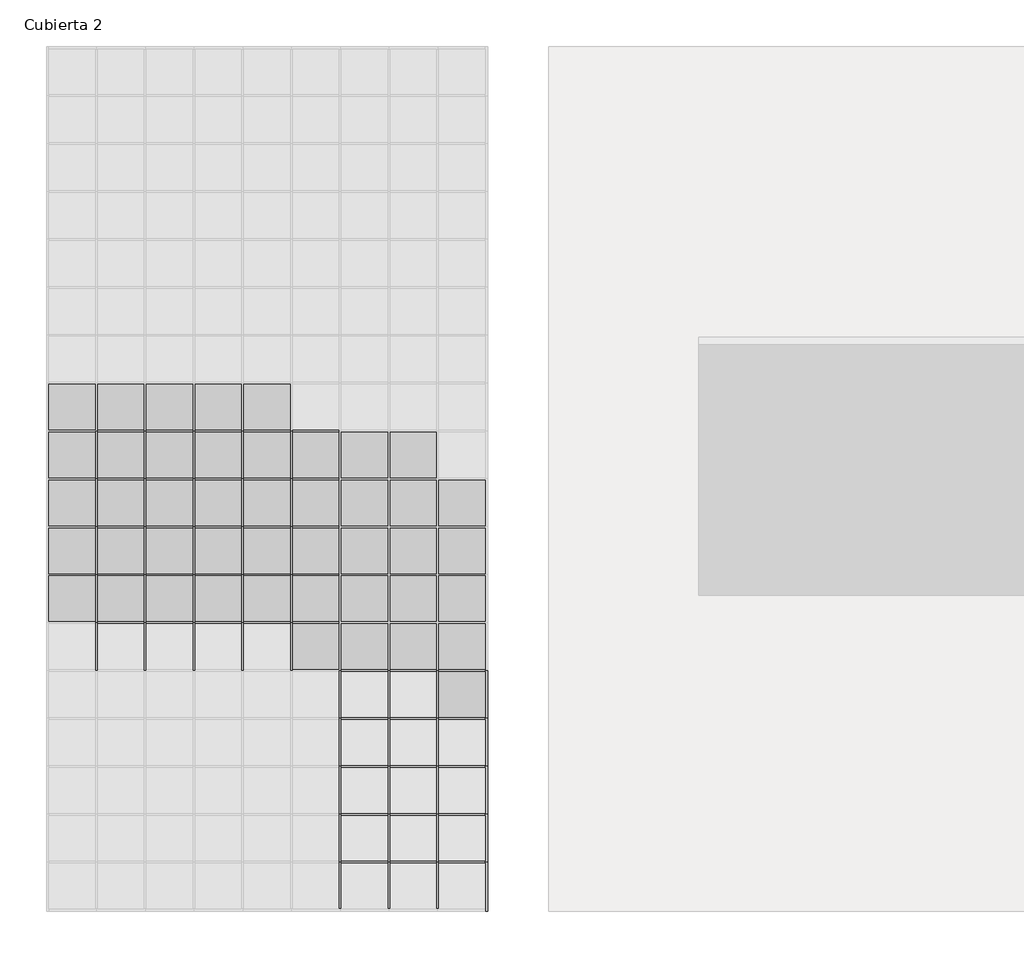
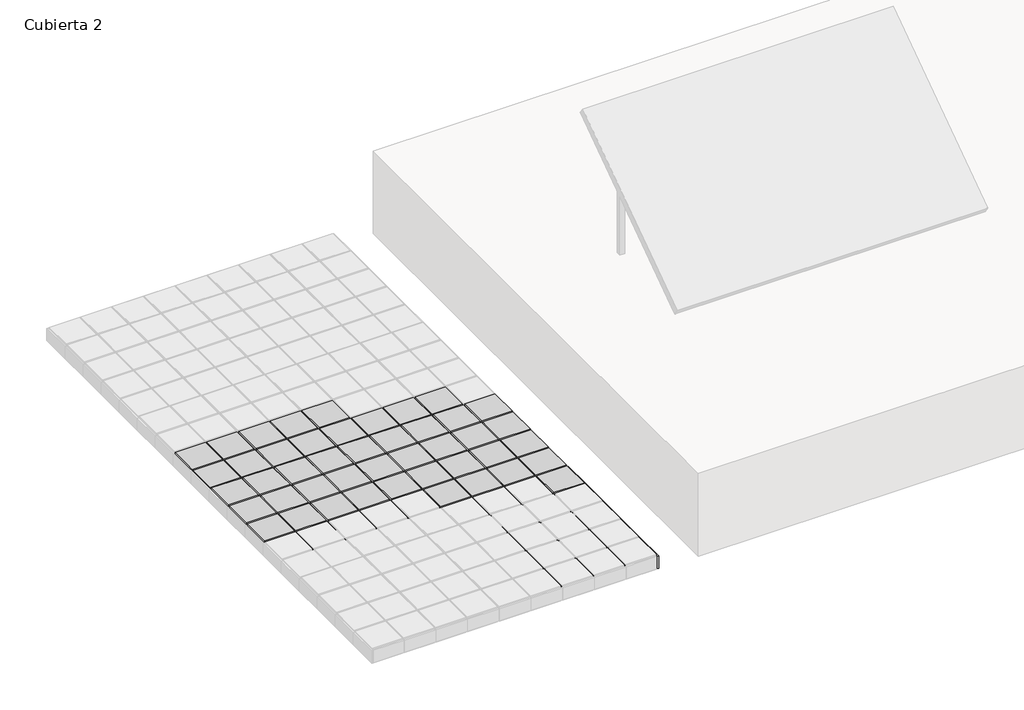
# One storey, part 2 of 4: 85 members, 45 plates.
"""IFC4 building model written with IfcOpenShell, lengths in millimetres."""

from ifc_helpers import new_model, si_unit, origin, place, context, project, spatial, transform, mapped, element, save
from components import montante_rectangular_ea949198, montante_rectangular_327b2392, montante_rectangular_18b8adfa, montante_rectangular_b9ac4352, montante_rectangular_c2f012c7, panel_de_sistema_3571c154

model = new_model("IFC4")

# Units and contexts
model_context = context("Model", 3, world=origin())
ifc_project = project(units=[si_unit("LENGTHUNIT", "METRE", prefix="MILLI")], contexts=[model_context])

# Site, building, storey
site = spatial("IfcSite", under=ifc_project)
building = spatial("IfcBuilding", under=site)
storey = spatial("IfcBuildingStorey", under=building, Name="Cubierta 2", Elevation=9000.0)

# Members
placement = place(None, origin())
montante_rectangular_shape = montante_rectangular_ea949198(model_context)
element("IfcMember", 1, ObjectType="Montante rectangular : Junta de paves", at=placement, inside=storey, context=model_context, shape_type="MappedRepresentation", body=[
    mapped(montante_rectangular_shape, transform((-4827.7268467, -7842.1113481, 8750.0), x_axis=(0.0, 1.0, 0.0), y_axis=(0.0, 0.0, -1.0), z_axis=(-1.0, 0.0, 0.0))),
])
element("IfcMember", 2, ObjectType="Montante rectangular : Junta de paves", at=placement, inside=storey, context=model_context, shape_type="MappedRepresentation", body=[
    mapped(montante_rectangular_shape, transform((-4628.8379579, -7842.1113481, 8750.0), x_axis=(0.0, 1.0, 0.0), y_axis=(0.0, 0.0, -1.0), z_axis=(-1.0, 0.0, 0.0))),
])
element("IfcMember", 3, ObjectType="Montante rectangular : Junta de paves", at=placement, inside=storey, context=model_context, shape_type="MappedRepresentation", body=[
    mapped(montante_rectangular_shape, transform((-4429.949069, -7842.1113481, 8750.0), x_axis=(0.0, 1.0, 0.0), y_axis=(0.0, 0.0, -1.0), z_axis=(-1.0, 0.0, 0.0))),
])
element("IfcMember", 4, ObjectType="Montante rectangular : Junta de paves", at=placement, inside=storey, context=model_context, shape_type="MappedRepresentation", body=[
    mapped(montante_rectangular_shape, transform((-4827.7268467, -7646.5557926, 8750.0), x_axis=(0.0, 1.0, 0.0), y_axis=(0.0, 0.0, -1.0), z_axis=(-1.0, 0.0, 0.0))),
])
element("IfcMember", 5, ObjectType="Montante rectangular : Junta de paves", at=placement, inside=storey, context=model_context, shape_type="MappedRepresentation", body=[
    mapped(montante_rectangular_shape, transform((-4628.8379579, -7646.5557926, 8750.0), x_axis=(0.0, 1.0, 0.0), y_axis=(0.0, 0.0, -1.0), z_axis=(-1.0, 0.0, 0.0))),
])
element("IfcMember", 6, ObjectType="Montante rectangular : Junta de paves", at=placement, inside=storey, context=model_context, shape_type="MappedRepresentation", body=[
    mapped(montante_rectangular_shape, transform((-4429.949069, -7646.5557926, 8750.0), x_axis=(0.0, 1.0, 0.0), y_axis=(0.0, 0.0, -1.0), z_axis=(-1.0, 0.0, 0.0))),
])
element("IfcMember", 7, ObjectType="Montante rectangular : Junta de paves", at=placement, inside=storey, context=model_context, shape_type="MappedRepresentation", body=[
    mapped(montante_rectangular_shape, transform((-4827.7268467, -7451.000237, 8750.0), x_axis=(0.0, 1.0, 0.0), y_axis=(0.0, 0.0, -1.0), z_axis=(-1.0, 0.0, 0.0))),
])
element("IfcMember", 8, ObjectType="Montante rectangular : Junta de paves", at=placement, inside=storey, context=model_context, shape_type="MappedRepresentation", body=[
    mapped(montante_rectangular_shape, transform((-4628.8379579, -7451.000237, 8750.0), x_axis=(0.0, 1.0, 0.0), y_axis=(0.0, 0.0, -1.0), z_axis=(-1.0, 0.0, 0.0))),
])
element("IfcMember", 9, ObjectType="Montante rectangular : Junta de paves", at=placement, inside=storey, context=model_context, shape_type="MappedRepresentation", body=[
    mapped(montante_rectangular_shape, transform((-4429.949069, -7451.000237, 8750.0), x_axis=(0.0, 1.0, 0.0), y_axis=(0.0, 0.0, -1.0), z_axis=(-1.0, 0.0, 0.0))),
])
element("IfcMember", 10, ObjectType="Montante rectangular : Junta de paves", at=placement, inside=storey, context=model_context, shape_type="MappedRepresentation", body=[
    mapped(montante_rectangular_shape, transform((-4827.7268467, -7255.4446815, 8750.0), x_axis=(0.0, 1.0, 0.0), y_axis=(0.0, 0.0, -1.0), z_axis=(-1.0, 0.0, 0.0))),
])
element("IfcMember", 11, ObjectType="Montante rectangular : Junta de paves", at=placement, inside=storey, context=model_context, shape_type="MappedRepresentation", body=[
    mapped(montante_rectangular_shape, transform((-4628.8379579, -7255.4446815, 8750.0), x_axis=(0.0, 1.0, 0.0), y_axis=(0.0, 0.0, -1.0), z_axis=(-1.0, 0.0, 0.0))),
])
element("IfcMember", 12, ObjectType="Montante rectangular : Junta de paves", at=placement, inside=storey, context=model_context, shape_type="MappedRepresentation", body=[
    mapped(montante_rectangular_shape, transform((-4429.949069, -7255.4446815, 8750.0), x_axis=(0.0, 1.0, 0.0), y_axis=(0.0, 0.0, -1.0), z_axis=(-1.0, 0.0, 0.0))),
])
element("IfcMember", 13, ObjectType="Montante rectangular : Junta de paves", at=placement, inside=storey, context=model_context, shape_type="MappedRepresentation", body=[
    mapped(montante_rectangular_shape, transform((-4827.7268467, -7059.8891259, 8750.0), x_axis=(0.0, 1.0, 0.0), y_axis=(0.0, 0.0, -1.0), z_axis=(-1.0, 0.0, 0.0))),
])
element("IfcMember", 14, ObjectType="Montante rectangular : Junta de paves", at=placement, inside=storey, context=model_context, shape_type="MappedRepresentation", body=[
    mapped(montante_rectangular_shape, transform((-4628.8379579, -7059.8891259, 8750.0), x_axis=(0.0, 1.0, 0.0), y_axis=(0.0, 0.0, -1.0), z_axis=(-1.0, 0.0, 0.0))),
])
element("IfcMember", 15, ObjectType="Montante rectangular : Junta de paves", at=placement, inside=storey, context=model_context, shape_type="MappedRepresentation", body=[
    mapped(montante_rectangular_shape, transform((-4429.949069, -7059.8891259, 8750.0), x_axis=(0.0, 1.0, 0.0), y_axis=(0.0, 0.0, -1.0), z_axis=(-1.0, 0.0, 0.0))),
])
element("IfcMember", 16, ObjectType="Montante rectangular : Junta de paves", at=placement, inside=storey, context=model_context, shape_type="MappedRepresentation", body=[
    mapped(montante_rectangular_shape, transform((-5822.1712912, -6864.3335704, 8750.0), x_axis=(0.0, 1.0, 0.0), y_axis=(0.0, 0.0, -1.0), z_axis=(-1.0, 0.0, 0.0))),
])
element("IfcMember", 17, ObjectType="Montante rectangular : Junta de paves", at=placement, inside=storey, context=model_context, shape_type="MappedRepresentation", body=[
    mapped(montante_rectangular_shape, transform((-5623.2824023, -6864.3335704, 8750.0), x_axis=(0.0, 1.0, 0.0), y_axis=(0.0, 0.0, -1.0), z_axis=(-1.0, 0.0, 0.0))),
])
element("IfcMember", 18, ObjectType="Montante rectangular : Junta de paves", at=placement, inside=storey, context=model_context, shape_type="MappedRepresentation", body=[
    mapped(montante_rectangular_shape, transform((-5424.3935134, -6864.3335704, 8750.0), x_axis=(0.0, 1.0, 0.0), y_axis=(0.0, 0.0, -1.0), z_axis=(-1.0, 0.0, 0.0))),
])
element("IfcMember", 19, ObjectType="Montante rectangular : Junta de paves", at=placement, inside=storey, context=model_context, shape_type="MappedRepresentation", body=[
    mapped(montante_rectangular_shape, transform((-5225.5046245, -6864.3335704, 8750.0), x_axis=(0.0, 1.0, 0.0), y_axis=(0.0, 0.0, -1.0), z_axis=(-1.0, 0.0, 0.0))),
])
element("IfcMember", 20, ObjectType="Montante rectangular : Junta de paves", at=placement, inside=storey, context=model_context, shape_type="MappedRepresentation", body=[
    mapped(montante_rectangular_shape, transform((-5026.6157356, -6864.3335704, 8750.0), x_axis=(0.0, 1.0, 0.0), y_axis=(0.0, 0.0, -1.0), z_axis=(-1.0, 0.0, 0.0))),
])
element("IfcMember", 21, ObjectType="Montante rectangular : Junta de paves", at=placement, inside=storey, context=model_context, shape_type="MappedRepresentation", body=[
    mapped(montante_rectangular_shape, transform((-5822.1712912, -6668.7780148, 8750.0), x_axis=(0.0, 1.0, 0.0), y_axis=(0.0, 0.0, -1.0), z_axis=(-1.0, 0.0, 0.0))),
])
element("IfcMember", 22, ObjectType="Montante rectangular : Junta de paves", at=placement, inside=storey, context=model_context, shape_type="MappedRepresentation", body=[
    mapped(montante_rectangular_shape, transform((-5623.2824023, -6668.7780148, 8750.0), x_axis=(0.0, 1.0, 0.0), y_axis=(0.0, 0.0, -1.0), z_axis=(-1.0, 0.0, 0.0))),
])
element("IfcMember", 23, ObjectType="Montante rectangular : Junta de paves", at=placement, inside=storey, context=model_context, shape_type="MappedRepresentation", body=[
    mapped(montante_rectangular_shape, transform((-5424.3935134, -6668.7780148, 8750.0), x_axis=(0.0, 1.0, 0.0), y_axis=(0.0, 0.0, -1.0), z_axis=(-1.0, 0.0, 0.0))),
])
element("IfcMember", 24, ObjectType="Montante rectangular : Junta de paves", at=placement, inside=storey, context=model_context, shape_type="MappedRepresentation", body=[
    mapped(montante_rectangular_shape, transform((-5225.5046245, -6668.7780148, 8750.0), x_axis=(0.0, 1.0, 0.0), y_axis=(0.0, 0.0, -1.0), z_axis=(-1.0, 0.0, 0.0))),
])
element("IfcMember", 25, ObjectType="Montante rectangular : Junta de paves", at=placement, inside=storey, context=model_context, shape_type="MappedRepresentation", body=[
    mapped(montante_rectangular_shape, transform((-5026.6157356, -6668.7780148, 8750.0), x_axis=(0.0, 1.0, 0.0), y_axis=(0.0, 0.0, -1.0), z_axis=(-1.0, 0.0, 0.0))),
])
element("IfcMember", 26, ObjectType="Montante rectangular : Junta de paves", at=placement, inside=storey, context=model_context, shape_type="MappedRepresentation", body=[
    mapped(montante_rectangular_shape, transform((-5822.1712912, -6473.2224592, 8750.0), x_axis=(0.0, 1.0, 0.0), y_axis=(0.0, 0.0, -1.0), z_axis=(-1.0, 0.0, 0.0))),
])
element("IfcMember", 27, ObjectType="Montante rectangular : Junta de paves", at=placement, inside=storey, context=model_context, shape_type="MappedRepresentation", body=[
    mapped(montante_rectangular_shape, transform((-5623.2824023, -6473.2224592, 8750.0), x_axis=(0.0, 1.0, 0.0), y_axis=(0.0, 0.0, -1.0), z_axis=(-1.0, 0.0, 0.0))),
])
element("IfcMember", 28, ObjectType="Montante rectangular : Junta de paves", at=placement, inside=storey, context=model_context, shape_type="MappedRepresentation", body=[
    mapped(montante_rectangular_shape, transform((-5424.3935134, -6473.2224592, 8750.0), x_axis=(0.0, 1.0, 0.0), y_axis=(0.0, 0.0, -1.0), z_axis=(-1.0, 0.0, 0.0))),
])
element("IfcMember", 29, ObjectType="Montante rectangular : Junta de paves", at=placement, inside=storey, context=model_context, shape_type="MappedRepresentation", body=[
    mapped(montante_rectangular_shape, transform((-5225.5046245, -6473.2224592, 8750.0), x_axis=(0.0, 1.0, 0.0), y_axis=(0.0, 0.0, -1.0), z_axis=(-1.0, 0.0, 0.0))),
])
element("IfcMember", 30, ObjectType="Montante rectangular : Junta de paves", at=placement, inside=storey, context=model_context, shape_type="MappedRepresentation", body=[
    mapped(montante_rectangular_shape, transform((-5026.6157356, -6473.2224592, 8750.0), x_axis=(0.0, 1.0, 0.0), y_axis=(0.0, 0.0, -1.0), z_axis=(-1.0, 0.0, 0.0))),
])
element("IfcMember", 31, ObjectType="Montante rectangular : Junta de paves", at=placement, inside=storey, context=model_context, shape_type="MappedRepresentation", body=[
    mapped(montante_rectangular_shape, transform((-5822.1712912, -6277.6669037, 8750.0), x_axis=(0.0, 1.0, 0.0), y_axis=(0.0, 0.0, -1.0), z_axis=(-1.0, 0.0, 0.0))),
])
element("IfcMember", 32, ObjectType="Montante rectangular : Junta de paves", at=placement, inside=storey, context=model_context, shape_type="MappedRepresentation", body=[
    mapped(montante_rectangular_shape, transform((-5623.2824023, -6277.6669037, 8750.0), x_axis=(0.0, 1.0, 0.0), y_axis=(0.0, 0.0, -1.0), z_axis=(-1.0, 0.0, 0.0))),
])
element("IfcMember", 33, ObjectType="Montante rectangular : Junta de paves", at=placement, inside=storey, context=model_context, shape_type="MappedRepresentation", body=[
    mapped(montante_rectangular_shape, transform((-5424.3935134, -6277.6669037, 8750.0), x_axis=(0.0, 1.0, 0.0), y_axis=(0.0, 0.0, -1.0), z_axis=(-1.0, 0.0, 0.0))),
])
element("IfcMember", 34, ObjectType="Montante rectangular : Junta de paves", at=placement, inside=storey, context=model_context, shape_type="MappedRepresentation", body=[
    mapped(montante_rectangular_shape, transform((-5225.5046245, -6277.6669037, 8750.0), x_axis=(0.0, 1.0, 0.0), y_axis=(0.0, 0.0, -1.0), z_axis=(-1.0, 0.0, 0.0))),
])
element("IfcMember", 35, ObjectType="Montante rectangular : Junta de paves", at=placement, inside=storey, context=model_context, shape_type="MappedRepresentation", body=[
    mapped(montante_rectangular_shape, transform((-5026.6157356, -6277.6669037, 8750.0), x_axis=(0.0, 1.0, 0.0), y_axis=(0.0, 0.0, -1.0), z_axis=(-1.0, 0.0, 0.0))),
])
element("IfcMember", 36, ObjectType="Montante rectangular : Junta de paves", at=placement, inside=storey, context=model_context, shape_type="MappedRepresentation", body=[
    mapped(montante_rectangular_shape, transform((-5822.1712912, -6082.1113481, 8750.0), x_axis=(0.0, 1.0, 0.0), y_axis=(0.0, 0.0, -1.0), z_axis=(-1.0, 0.0, 0.0))),
])
element("IfcMember", 37, ObjectType="Montante rectangular : Junta de paves", at=placement, inside=storey, context=model_context, shape_type="MappedRepresentation", body=[
    mapped(montante_rectangular_shape, transform((-5623.2824023, -6082.1113481, 8750.0), x_axis=(0.0, 1.0, 0.0), y_axis=(0.0, 0.0, -1.0), z_axis=(-1.0, 0.0, 0.0))),
])
element("IfcMember", 38, ObjectType="Montante rectangular : Junta de paves", at=placement, inside=storey, context=model_context, shape_type="MappedRepresentation", body=[
    mapped(montante_rectangular_shape, transform((-5424.3935134, -6082.1113481, 8750.0), x_axis=(0.0, 1.0, 0.0), y_axis=(0.0, 0.0, -1.0), z_axis=(-1.0, 0.0, 0.0))),
])
element("IfcMember", 39, ObjectType="Montante rectangular : Junta de paves", at=placement, inside=storey, context=model_context, shape_type="MappedRepresentation", body=[
    mapped(montante_rectangular_shape, transform((-5225.5046245, -6082.1113481, 8750.0), x_axis=(0.0, 1.0, 0.0), y_axis=(0.0, 0.0, -1.0), z_axis=(-1.0, 0.0, 0.0))),
])
element("IfcMember", 40, ObjectType="Montante rectangular : Junta de paves", at=placement, inside=storey, context=model_context, shape_type="MappedRepresentation", body=[
    mapped(montante_rectangular_shape, transform((-5026.6157356, -6082.1113481, 8750.0), x_axis=(0.0, 1.0, 0.0), y_axis=(0.0, 0.0, -1.0), z_axis=(-1.0, 0.0, 0.0))),
])
montante_rectangular_2_shape = montante_rectangular_327b2392(model_context)
element("IfcMember", 41, ObjectType="Montante rectangular : Junta de paves", at=placement, inside=storey, context=model_context, shape_type="MappedRepresentation", body=[
    mapped(montante_rectangular_2_shape, transform((-4832.7268467, -7842.1113481, 8750.0), x_axis=(1.0, 0.0, 0.0), y_axis=(0.0, 0.0, -1.0), z_axis=(0.0, 1.0, 0.0))),
])
element("IfcMember", 42, ObjectType="Montante rectangular : Junta de paves", at=placement, inside=storey, context=model_context, shape_type="MappedRepresentation", body=[
    mapped(montante_rectangular_2_shape, transform((-4633.8379579, -7842.1113481, 8750.0), x_axis=(1.0, 0.0, 0.0), y_axis=(0.0, 0.0, -1.0), z_axis=(0.0, 1.0, 0.0))),
])
element("IfcMember", 43, ObjectType="Montante rectangular : Junta de paves", at=placement, inside=storey, context=model_context, shape_type="MappedRepresentation", body=[
    mapped(montante_rectangular_2_shape, transform((-4434.949069, -7842.1113481, 8750.0), x_axis=(1.0, 0.0, 0.0), y_axis=(0.0, 0.0, -1.0), z_axis=(0.0, 1.0, 0.0))),
])
montante_rectangular_3_shape = montante_rectangular_18b8adfa(model_context)
element("IfcMember", 44, ObjectType="Montante rectangular : Junta de paves", at=placement, inside=storey, context=model_context, shape_type="MappedRepresentation", body=[
    mapped(montante_rectangular_3_shape, transform((-4832.7268467, -7646.5557926, 8750.0), x_axis=(1.0, 0.0, 0.0), y_axis=(0.0, 0.0, -1.0), z_axis=(0.0, 1.0, 0.0))),
])
element("IfcMember", 45, ObjectType="Montante rectangular : Junta de paves", at=placement, inside=storey, context=model_context, shape_type="MappedRepresentation", body=[
    mapped(montante_rectangular_3_shape, transform((-4633.8379579, -7646.5557926, 8750.0), x_axis=(1.0, 0.0, 0.0), y_axis=(0.0, 0.0, -1.0), z_axis=(0.0, 1.0, 0.0))),
])
element("IfcMember", 46, ObjectType="Montante rectangular : Junta de paves", at=placement, inside=storey, context=model_context, shape_type="MappedRepresentation", body=[
    mapped(montante_rectangular_3_shape, transform((-4434.949069, -7646.5557926, 8750.0), x_axis=(1.0, 0.0, 0.0), y_axis=(0.0, 0.0, -1.0), z_axis=(0.0, 1.0, 0.0))),
])
element("IfcMember", 47, ObjectType="Montante rectangular : Junta de paves", at=placement, inside=storey, context=model_context, shape_type="MappedRepresentation", body=[
    mapped(montante_rectangular_3_shape, transform((-4832.7268467, -7451.000237, 8750.0), x_axis=(1.0, 0.0, 0.0), y_axis=(0.0, 0.0, -1.0), z_axis=(0.0, 1.0, 0.0))),
])
element("IfcMember", 48, ObjectType="Montante rectangular : Junta de paves", at=placement, inside=storey, context=model_context, shape_type="MappedRepresentation", body=[
    mapped(montante_rectangular_3_shape, transform((-4633.8379579, -7451.000237, 8750.0), x_axis=(1.0, 0.0, 0.0), y_axis=(0.0, 0.0, -1.0), z_axis=(0.0, 1.0, 0.0))),
])
element("IfcMember", 49, ObjectType="Montante rectangular : Junta de paves", at=placement, inside=storey, context=model_context, shape_type="MappedRepresentation", body=[
    mapped(montante_rectangular_3_shape, transform((-4434.949069, -7451.000237, 8750.0), x_axis=(1.0, 0.0, 0.0), y_axis=(0.0, 0.0, -1.0), z_axis=(0.0, 1.0, 0.0))),
])
element("IfcMember", 50, ObjectType="Montante rectangular : Junta de paves", at=placement, inside=storey, context=model_context, shape_type="MappedRepresentation", body=[
    mapped(montante_rectangular_3_shape, transform((-4832.7268467, -7255.4446815, 8750.0), x_axis=(1.0, 0.0, 0.0), y_axis=(0.0, 0.0, -1.0), z_axis=(0.0, 1.0, 0.0))),
])
element("IfcMember", 51, ObjectType="Montante rectangular : Junta de paves", at=placement, inside=storey, context=model_context, shape_type="MappedRepresentation", body=[
    mapped(montante_rectangular_3_shape, transform((-4633.8379579, -7255.4446815, 8750.0), x_axis=(1.0, 0.0, 0.0), y_axis=(0.0, 0.0, -1.0), z_axis=(0.0, 1.0, 0.0))),
])
element("IfcMember", 52, ObjectType="Montante rectangular : Junta de paves", at=placement, inside=storey, context=model_context, shape_type="MappedRepresentation", body=[
    mapped(montante_rectangular_3_shape, transform((-4434.949069, -7255.4446815, 8750.0), x_axis=(1.0, 0.0, 0.0), y_axis=(0.0, 0.0, -1.0), z_axis=(0.0, 1.0, 0.0))),
])
element("IfcMember", 53, ObjectType="Montante rectangular : Junta de paves", at=placement, inside=storey, context=model_context, shape_type="MappedRepresentation", body=[
    mapped(montante_rectangular_3_shape, transform((-4832.7268467, -7059.8891259, 8750.0), x_axis=(1.0, 0.0, 0.0), y_axis=(0.0, 0.0, -1.0), z_axis=(0.0, 1.0, 0.0))),
])
element("IfcMember", 54, ObjectType="Montante rectangular : Junta de paves", at=placement, inside=storey, context=model_context, shape_type="MappedRepresentation", body=[
    mapped(montante_rectangular_3_shape, transform((-4633.8379579, -7059.8891259, 8750.0), x_axis=(1.0, 0.0, 0.0), y_axis=(0.0, 0.0, -1.0), z_axis=(0.0, 1.0, 0.0))),
])
element("IfcMember", 55, ObjectType="Montante rectangular : Junta de paves", at=placement, inside=storey, context=model_context, shape_type="MappedRepresentation", body=[
    mapped(montante_rectangular_3_shape, transform((-4434.949069, -7059.8891259, 8750.0), x_axis=(1.0, 0.0, 0.0), y_axis=(0.0, 0.0, -1.0), z_axis=(0.0, 1.0, 0.0))),
])
element("IfcMember", 56, ObjectType="Montante rectangular : Junta de paves", at=placement, inside=storey, context=model_context, shape_type="MappedRepresentation", body=[
    mapped(montante_rectangular_3_shape, transform((-5827.1712912, -6864.3335704, 8750.0), x_axis=(1.0, 0.0, 0.0), y_axis=(0.0, 0.0, -1.0), z_axis=(0.0, 1.0, 0.0))),
])
element("IfcMember", 57, ObjectType="Montante rectangular : Junta de paves", at=placement, inside=storey, context=model_context, shape_type="MappedRepresentation", body=[
    mapped(montante_rectangular_3_shape, transform((-5628.2824023, -6864.3335704, 8750.0), x_axis=(1.0, 0.0, 0.0), y_axis=(0.0, 0.0, -1.0), z_axis=(0.0, 1.0, 0.0))),
])
element("IfcMember", 58, ObjectType="Montante rectangular : Junta de paves", at=placement, inside=storey, context=model_context, shape_type="MappedRepresentation", body=[
    mapped(montante_rectangular_3_shape, transform((-5429.3935134, -6864.3335704, 8750.0), x_axis=(1.0, 0.0, 0.0), y_axis=(0.0, 0.0, -1.0), z_axis=(0.0, 1.0, 0.0))),
])
element("IfcMember", 59, ObjectType="Montante rectangular : Junta de paves", at=placement, inside=storey, context=model_context, shape_type="MappedRepresentation", body=[
    mapped(montante_rectangular_3_shape, transform((-5230.5046245, -6864.3335704, 8750.0), x_axis=(1.0, 0.0, 0.0), y_axis=(0.0, 0.0, -1.0), z_axis=(0.0, 1.0, 0.0))),
])
element("IfcMember", 60, ObjectType="Montante rectangular : Junta de paves", at=placement, inside=storey, context=model_context, shape_type="MappedRepresentation", body=[
    mapped(montante_rectangular_3_shape, transform((-5031.6157356, -6864.3335704, 8750.0), x_axis=(1.0, 0.0, 0.0), y_axis=(0.0, 0.0, -1.0), z_axis=(0.0, 1.0, 0.0))),
])
element("IfcMember", 61, ObjectType="Montante rectangular : Junta de paves", at=placement, inside=storey, context=model_context, shape_type="MappedRepresentation", body=[
    mapped(montante_rectangular_3_shape, transform((-5827.1712912, -6668.7780148, 8750.0), x_axis=(1.0, 0.0, 0.0), y_axis=(0.0, 0.0, -1.0), z_axis=(0.0, 1.0, 0.0))),
])
element("IfcMember", 62, ObjectType="Montante rectangular : Junta de paves", at=placement, inside=storey, context=model_context, shape_type="MappedRepresentation", body=[
    mapped(montante_rectangular_3_shape, transform((-5628.2824023, -6668.7780148, 8750.0), x_axis=(1.0, 0.0, 0.0), y_axis=(0.0, 0.0, -1.0), z_axis=(0.0, 1.0, 0.0))),
])
element("IfcMember", 63, ObjectType="Montante rectangular : Junta de paves", at=placement, inside=storey, context=model_context, shape_type="MappedRepresentation", body=[
    mapped(montante_rectangular_3_shape, transform((-5429.3935134, -6668.7780148, 8750.0), x_axis=(1.0, 0.0, 0.0), y_axis=(0.0, 0.0, -1.0), z_axis=(0.0, 1.0, 0.0))),
])
element("IfcMember", 64, ObjectType="Montante rectangular : Junta de paves", at=placement, inside=storey, context=model_context, shape_type="MappedRepresentation", body=[
    mapped(montante_rectangular_3_shape, transform((-5230.5046245, -6668.7780148, 8750.0), x_axis=(1.0, 0.0, 0.0), y_axis=(0.0, 0.0, -1.0), z_axis=(0.0, 1.0, 0.0))),
])
element("IfcMember", 65, ObjectType="Montante rectangular : Junta de paves", at=placement, inside=storey, context=model_context, shape_type="MappedRepresentation", body=[
    mapped(montante_rectangular_3_shape, transform((-5031.6157356, -6668.7780148, 8750.0), x_axis=(1.0, 0.0, 0.0), y_axis=(0.0, 0.0, -1.0), z_axis=(0.0, 1.0, 0.0))),
])
element("IfcMember", 66, ObjectType="Montante rectangular : Junta de paves", at=placement, inside=storey, context=model_context, shape_type="MappedRepresentation", body=[
    mapped(montante_rectangular_3_shape, transform((-5827.1712912, -6473.2224592, 8750.0), x_axis=(1.0, 0.0, 0.0), y_axis=(0.0, 0.0, -1.0), z_axis=(0.0, 1.0, 0.0))),
])
element("IfcMember", 67, ObjectType="Montante rectangular : Junta de paves", at=placement, inside=storey, context=model_context, shape_type="MappedRepresentation", body=[
    mapped(montante_rectangular_3_shape, transform((-5628.2824023, -6473.2224592, 8750.0), x_axis=(1.0, 0.0, 0.0), y_axis=(0.0, 0.0, -1.0), z_axis=(0.0, 1.0, 0.0))),
])
element("IfcMember", 68, ObjectType="Montante rectangular : Junta de paves", at=placement, inside=storey, context=model_context, shape_type="MappedRepresentation", body=[
    mapped(montante_rectangular_3_shape, transform((-5429.3935134, -6473.2224592, 8750.0), x_axis=(1.0, 0.0, 0.0), y_axis=(0.0, 0.0, -1.0), z_axis=(0.0, 1.0, 0.0))),
])
element("IfcMember", 69, ObjectType="Montante rectangular : Junta de paves", at=placement, inside=storey, context=model_context, shape_type="MappedRepresentation", body=[
    mapped(montante_rectangular_3_shape, transform((-5230.5046245, -6473.2224592, 8750.0), x_axis=(1.0, 0.0, 0.0), y_axis=(0.0, 0.0, -1.0), z_axis=(0.0, 1.0, 0.0))),
])
element("IfcMember", 70, ObjectType="Montante rectangular : Junta de paves", at=placement, inside=storey, context=model_context, shape_type="MappedRepresentation", body=[
    mapped(montante_rectangular_3_shape, transform((-5031.6157356, -6473.2224592, 8750.0), x_axis=(1.0, 0.0, 0.0), y_axis=(0.0, 0.0, -1.0), z_axis=(0.0, 1.0, 0.0))),
])
element("IfcMember", 71, ObjectType="Montante rectangular : Junta de paves", at=placement, inside=storey, context=model_context, shape_type="MappedRepresentation", body=[
    mapped(montante_rectangular_3_shape, transform((-5827.1712912, -6277.6669037, 8750.0), x_axis=(1.0, 0.0, 0.0), y_axis=(0.0, 0.0, -1.0), z_axis=(0.0, 1.0, 0.0))),
])
element("IfcMember", 72, ObjectType="Montante rectangular : Junta de paves", at=placement, inside=storey, context=model_context, shape_type="MappedRepresentation", body=[
    mapped(montante_rectangular_3_shape, transform((-5628.2824023, -6277.6669037, 8750.0), x_axis=(1.0, 0.0, 0.0), y_axis=(0.0, 0.0, -1.0), z_axis=(0.0, 1.0, 0.0))),
])
element("IfcMember", 73, ObjectType="Montante rectangular : Junta de paves", at=placement, inside=storey, context=model_context, shape_type="MappedRepresentation", body=[
    mapped(montante_rectangular_3_shape, transform((-5429.3935134, -6277.6669037, 8750.0), x_axis=(1.0, 0.0, 0.0), y_axis=(0.0, 0.0, -1.0), z_axis=(0.0, 1.0, 0.0))),
])
element("IfcMember", 74, ObjectType="Montante rectangular : Junta de paves", at=placement, inside=storey, context=model_context, shape_type="MappedRepresentation", body=[
    mapped(montante_rectangular_3_shape, transform((-5230.5046245, -6277.6669037, 8750.0), x_axis=(1.0, 0.0, 0.0), y_axis=(0.0, 0.0, -1.0), z_axis=(0.0, 1.0, 0.0))),
])
element("IfcMember", 75, ObjectType="Montante rectangular : Junta de paves", at=placement, inside=storey, context=model_context, shape_type="MappedRepresentation", body=[
    mapped(montante_rectangular_3_shape, transform((-5031.6157356, -6277.6669037, 8750.0), x_axis=(1.0, 0.0, 0.0), y_axis=(0.0, 0.0, -1.0), z_axis=(0.0, 1.0, 0.0))),
])
element("IfcMember", 76, ObjectType="Montante rectangular : Junta de paves", at=placement, inside=storey, context=model_context, shape_type="MappedRepresentation", body=[
    mapped(montante_rectangular_3_shape, transform((-5827.1712912, -6082.1113481, 8750.0), x_axis=(1.0, 0.0, 0.0), y_axis=(0.0, 0.0, -1.0), z_axis=(0.0, 1.0, 0.0))),
])
element("IfcMember", 77, ObjectType="Montante rectangular : Junta de paves", at=placement, inside=storey, context=model_context, shape_type="MappedRepresentation", body=[
    mapped(montante_rectangular_3_shape, transform((-5628.2824023, -6082.1113481, 8750.0), x_axis=(1.0, 0.0, 0.0), y_axis=(0.0, 0.0, -1.0), z_axis=(0.0, 1.0, 0.0))),
])
element("IfcMember", 78, ObjectType="Montante rectangular : Junta de paves", at=placement, inside=storey, context=model_context, shape_type="MappedRepresentation", body=[
    mapped(montante_rectangular_3_shape, transform((-5429.3935134, -6082.1113481, 8750.0), x_axis=(1.0, 0.0, 0.0), y_axis=(0.0, 0.0, -1.0), z_axis=(0.0, 1.0, 0.0))),
])
element("IfcMember", 79, ObjectType="Montante rectangular : Junta de paves", at=placement, inside=storey, context=model_context, shape_type="MappedRepresentation", body=[
    mapped(montante_rectangular_3_shape, transform((-5230.5046245, -6082.1113481, 8750.0), x_axis=(1.0, 0.0, 0.0), y_axis=(0.0, 0.0, -1.0), z_axis=(0.0, 1.0, 0.0))),
])
element("IfcMember", 80, ObjectType="Montante rectangular : Junta de paves", at=placement, inside=storey, context=model_context, shape_type="MappedRepresentation", body=[
    mapped(montante_rectangular_3_shape, transform((-5031.6157356, -6082.1113481, 8750.0), x_axis=(1.0, 0.0, 0.0), y_axis=(0.0, 0.0, -1.0), z_axis=(0.0, 1.0, 0.0))),
])
montante_rectangular_4_shape = montante_rectangular_b9ac4352(model_context)
element("IfcMember", 81, ObjectType="Montante rectangular : Junta de paves", at=placement, inside=storey, context=model_context, shape_type="MappedRepresentation", body=[
    mapped(montante_rectangular_4_shape, transform((-4231.0601801, -7646.5557926, 8750.0), x_axis=(1.0, 0.0, 0.0), y_axis=(0.0, 0.0, -1.0), z_axis=(0.0, 1.0, 0.0))),
])
element("IfcMember", 82, ObjectType="Montante rectangular : Junta de paves", at=placement, inside=storey, context=model_context, shape_type="MappedRepresentation", body=[
    mapped(montante_rectangular_4_shape, transform((-4231.0601801, -7451.000237, 8750.0), x_axis=(1.0, 0.0, 0.0), y_axis=(0.0, 0.0, -1.0), z_axis=(0.0, 1.0, 0.0))),
])
element("IfcMember", 83, ObjectType="Montante rectangular : Junta de paves", at=placement, inside=storey, context=model_context, shape_type="MappedRepresentation", body=[
    mapped(montante_rectangular_4_shape, transform((-4231.0601801, -7255.4446815, 8750.0), x_axis=(1.0, 0.0, 0.0), y_axis=(0.0, 0.0, -1.0), z_axis=(0.0, 1.0, 0.0))),
])
element("IfcMember", 84, ObjectType="Montante rectangular : Junta de paves", at=placement, inside=storey, context=model_context, shape_type="MappedRepresentation", body=[
    mapped(montante_rectangular_4_shape, transform((-4231.0601801, -7059.8891259, 8750.0), x_axis=(1.0, 0.0, 0.0), y_axis=(0.0, 0.0, -1.0), z_axis=(0.0, 1.0, 0.0))),
])
montante_rectangular_5_shape = montante_rectangular_c2f012c7(model_context)
element("IfcMember", 85, ObjectType="Montante rectangular : Junta de paves", at=placement, inside=storey, context=model_context, shape_type="MappedRepresentation", body=[
    mapped(montante_rectangular_5_shape, transform((-4231.0601801, -7842.1113481, 8750.0), x_axis=(1.0, 0.0, 0.0), y_axis=(0.0, 0.0, -1.0), z_axis=(0.0, 1.0, 0.0))),
])

# Plates
panel_de_sistema_shape = panel_de_sistema_3571c154(model_context)
element("IfcPlate", 86, ObjectType="Panel de sistema : PAVES", at=placement, inside=storey, context=model_context, shape_type="MappedRepresentation", body=[
    mapped(panel_de_sistema_shape, transform((-4335.5046245, -7250.4446815, 8750.0), x_axis=(1.0, 0.0, 0.0), y_axis=(0.0, 0.0, -1.0), z_axis=(0.0, 1.0, 0.0))),
])
element("IfcPlate", 87, ObjectType="Panel de sistema : PAVES", at=placement, inside=storey, context=model_context, shape_type="MappedRepresentation", body=[
    mapped(panel_de_sistema_shape, transform((-4932.1712912, -7054.8891259, 8750.0), x_axis=(1.0, 0.0, 0.0), y_axis=(0.0, 0.0, -1.0), z_axis=(0.0, 1.0, 0.0))),
])
element("IfcPlate", 88, ObjectType="Panel de sistema : PAVES", at=placement, inside=storey, context=model_context, shape_type="MappedRepresentation", body=[
    mapped(panel_de_sistema_shape, transform((-4733.2824023, -7054.8891259, 8750.0), x_axis=(1.0, 0.0, 0.0), y_axis=(0.0, 0.0, -1.0), z_axis=(0.0, 1.0, 0.0))),
])
element("IfcPlate", 89, ObjectType="Panel de sistema : PAVES", at=placement, inside=storey, context=model_context, shape_type="MappedRepresentation", body=[
    mapped(panel_de_sistema_shape, transform((-4534.3935134, -7054.8891259, 8750.0), x_axis=(1.0, 0.0, 0.0), y_axis=(0.0, 0.0, -1.0), z_axis=(0.0, 1.0, 0.0))),
])
element("IfcPlate", 90, ObjectType="Panel de sistema : PAVES", at=placement, inside=storey, context=model_context, shape_type="MappedRepresentation", body=[
    mapped(panel_de_sistema_shape, transform((-4335.5046245, -7054.8891259, 8750.0), x_axis=(1.0, 0.0, 0.0), y_axis=(0.0, 0.0, -1.0), z_axis=(0.0, 1.0, 0.0))),
])
element("IfcPlate", 91, ObjectType="Panel de sistema : PAVES", at=placement, inside=storey, context=model_context, shape_type="MappedRepresentation", body=[
    mapped(panel_de_sistema_shape, transform((-5926.6157356, -6859.3335704, 8750.0), x_axis=(1.0, 0.0, 0.0), y_axis=(0.0, 0.0, -1.0), z_axis=(0.0, 1.0, 0.0))),
])
element("IfcPlate", 92, ObjectType="Panel de sistema : PAVES", at=placement, inside=storey, context=model_context, shape_type="MappedRepresentation", body=[
    mapped(panel_de_sistema_shape, transform((-5727.7268467, -6859.3335704, 8750.0), x_axis=(1.0, 0.0, 0.0), y_axis=(0.0, 0.0, -1.0), z_axis=(0.0, 1.0, 0.0))),
])
element("IfcPlate", 93, ObjectType="Panel de sistema : PAVES", at=placement, inside=storey, context=model_context, shape_type="MappedRepresentation", body=[
    mapped(panel_de_sistema_shape, transform((-5528.8379579, -6859.3335704, 8750.0), x_axis=(1.0, 0.0, 0.0), y_axis=(0.0, 0.0, -1.0), z_axis=(0.0, 1.0, 0.0))),
])
element("IfcPlate", 94, ObjectType="Panel de sistema : PAVES", at=placement, inside=storey, context=model_context, shape_type="MappedRepresentation", body=[
    mapped(panel_de_sistema_shape, transform((-5329.949069, -6859.3335704, 8750.0), x_axis=(1.0, 0.0, 0.0), y_axis=(0.0, 0.0, -1.0), z_axis=(0.0, 1.0, 0.0))),
])
element("IfcPlate", 95, ObjectType="Panel de sistema : PAVES", at=placement, inside=storey, context=model_context, shape_type="MappedRepresentation", body=[
    mapped(panel_de_sistema_shape, transform((-5131.0601801, -6859.3335704, 8750.0), x_axis=(1.0, 0.0, 0.0), y_axis=(0.0, 0.0, -1.0), z_axis=(0.0, 1.0, 0.0))),
])
element("IfcPlate", 96, ObjectType="Panel de sistema : PAVES", at=placement, inside=storey, context=model_context, shape_type="MappedRepresentation", body=[
    mapped(panel_de_sistema_shape, transform((-4932.1712912, -6859.3335704, 8750.0), x_axis=(1.0, 0.0, 0.0), y_axis=(0.0, 0.0, -1.0), z_axis=(0.0, 1.0, 0.0))),
])
element("IfcPlate", 97, ObjectType="Panel de sistema : PAVES", at=placement, inside=storey, context=model_context, shape_type="MappedRepresentation", body=[
    mapped(panel_de_sistema_shape, transform((-4733.2824023, -6859.3335704, 8750.0), x_axis=(1.0, 0.0, 0.0), y_axis=(0.0, 0.0, -1.0), z_axis=(0.0, 1.0, 0.0))),
])
element("IfcPlate", 98, ObjectType="Panel de sistema : PAVES", at=placement, inside=storey, context=model_context, shape_type="MappedRepresentation", body=[
    mapped(panel_de_sistema_shape, transform((-4534.3935134, -6859.3335704, 8750.0), x_axis=(1.0, 0.0, 0.0), y_axis=(0.0, 0.0, -1.0), z_axis=(0.0, 1.0, 0.0))),
])
element("IfcPlate", 99, ObjectType="Panel de sistema : PAVES", at=placement, inside=storey, context=model_context, shape_type="MappedRepresentation", body=[
    mapped(panel_de_sistema_shape, transform((-4335.5046245, -6859.3335704, 8750.0), x_axis=(1.0, 0.0, 0.0), y_axis=(0.0, 0.0, -1.0), z_axis=(0.0, 1.0, 0.0))),
])
element("IfcPlate", 100, ObjectType="Panel de sistema : PAVES", at=placement, inside=storey, context=model_context, shape_type="MappedRepresentation", body=[
    mapped(panel_de_sistema_shape, transform((-5926.6157356, -6663.7780148, 8750.0), x_axis=(1.0, 0.0, 0.0), y_axis=(0.0, 0.0, -1.0), z_axis=(0.0, 1.0, 0.0))),
])
element("IfcPlate", 101, ObjectType="Panel de sistema : PAVES", at=placement, inside=storey, context=model_context, shape_type="MappedRepresentation", body=[
    mapped(panel_de_sistema_shape, transform((-5727.7268467, -6663.7780148, 8750.0), x_axis=(1.0, 0.0, 0.0), y_axis=(0.0, 0.0, -1.0), z_axis=(0.0, 1.0, 0.0))),
])
element("IfcPlate", 102, ObjectType="Panel de sistema : PAVES", at=placement, inside=storey, context=model_context, shape_type="MappedRepresentation", body=[
    mapped(panel_de_sistema_shape, transform((-5528.8379579, -6663.7780148, 8750.0), x_axis=(1.0, 0.0, 0.0), y_axis=(0.0, 0.0, -1.0), z_axis=(0.0, 1.0, 0.0))),
])
element("IfcPlate", 103, ObjectType="Panel de sistema : PAVES", at=placement, inside=storey, context=model_context, shape_type="MappedRepresentation", body=[
    mapped(panel_de_sistema_shape, transform((-5329.949069, -6663.7780148, 8750.0), x_axis=(1.0, 0.0, 0.0), y_axis=(0.0, 0.0, -1.0), z_axis=(0.0, 1.0, 0.0))),
])
element("IfcPlate", 104, ObjectType="Panel de sistema : PAVES", at=placement, inside=storey, context=model_context, shape_type="MappedRepresentation", body=[
    mapped(panel_de_sistema_shape, transform((-5131.0601801, -6663.7780148, 8750.0), x_axis=(1.0, 0.0, 0.0), y_axis=(0.0, 0.0, -1.0), z_axis=(0.0, 1.0, 0.0))),
])
element("IfcPlate", 105, ObjectType="Panel de sistema : PAVES", at=placement, inside=storey, context=model_context, shape_type="MappedRepresentation", body=[
    mapped(panel_de_sistema_shape, transform((-4932.1712912, -6663.7780148, 8750.0), x_axis=(1.0, 0.0, 0.0), y_axis=(0.0, 0.0, -1.0), z_axis=(0.0, 1.0, 0.0))),
])
element("IfcPlate", 106, ObjectType="Panel de sistema : PAVES", at=placement, inside=storey, context=model_context, shape_type="MappedRepresentation", body=[
    mapped(panel_de_sistema_shape, transform((-4733.2824023, -6663.7780148, 8750.0), x_axis=(1.0, 0.0, 0.0), y_axis=(0.0, 0.0, -1.0), z_axis=(0.0, 1.0, 0.0))),
])
element("IfcPlate", 107, ObjectType="Panel de sistema : PAVES", at=placement, inside=storey, context=model_context, shape_type="MappedRepresentation", body=[
    mapped(panel_de_sistema_shape, transform((-4534.3935134, -6663.7780148, 8750.0), x_axis=(1.0, 0.0, 0.0), y_axis=(0.0, 0.0, -1.0), z_axis=(0.0, 1.0, 0.0))),
])
element("IfcPlate", 108, ObjectType="Panel de sistema : PAVES", at=placement, inside=storey, context=model_context, shape_type="MappedRepresentation", body=[
    mapped(panel_de_sistema_shape, transform((-4335.5046245, -6663.7780148, 8750.0), x_axis=(1.0, 0.0, 0.0), y_axis=(0.0, 0.0, -1.0), z_axis=(0.0, 1.0, 0.0))),
])
element("IfcPlate", 109, ObjectType="Panel de sistema : PAVES", at=placement, inside=storey, context=model_context, shape_type="MappedRepresentation", body=[
    mapped(panel_de_sistema_shape, transform((-5926.6157356, -6468.2224592, 8750.0), x_axis=(1.0, 0.0, 0.0), y_axis=(0.0, 0.0, -1.0), z_axis=(0.0, 1.0, 0.0))),
])
element("IfcPlate", 110, ObjectType="Panel de sistema : PAVES", at=placement, inside=storey, context=model_context, shape_type="MappedRepresentation", body=[
    mapped(panel_de_sistema_shape, transform((-5727.7268467, -6468.2224592, 8750.0), x_axis=(1.0, 0.0, 0.0), y_axis=(0.0, 0.0, -1.0), z_axis=(0.0, 1.0, 0.0))),
])
element("IfcPlate", 111, ObjectType="Panel de sistema : PAVES", at=placement, inside=storey, context=model_context, shape_type="MappedRepresentation", body=[
    mapped(panel_de_sistema_shape, transform((-5528.8379579, -6468.2224592, 8750.0), x_axis=(1.0, 0.0, 0.0), y_axis=(0.0, 0.0, -1.0), z_axis=(0.0, 1.0, 0.0))),
])
element("IfcPlate", 112, ObjectType="Panel de sistema : PAVES", at=placement, inside=storey, context=model_context, shape_type="MappedRepresentation", body=[
    mapped(panel_de_sistema_shape, transform((-5329.949069, -6468.2224592, 8750.0), x_axis=(1.0, 0.0, 0.0), y_axis=(0.0, 0.0, -1.0), z_axis=(0.0, 1.0, 0.0))),
])
element("IfcPlate", 113, ObjectType="Panel de sistema : PAVES", at=placement, inside=storey, context=model_context, shape_type="MappedRepresentation", body=[
    mapped(panel_de_sistema_shape, transform((-5131.0601801, -6468.2224592, 8750.0), x_axis=(1.0, 0.0, 0.0), y_axis=(0.0, 0.0, -1.0), z_axis=(0.0, 1.0, 0.0))),
])
element("IfcPlate", 114, ObjectType="Panel de sistema : PAVES", at=placement, inside=storey, context=model_context, shape_type="MappedRepresentation", body=[
    mapped(panel_de_sistema_shape, transform((-4932.1712912, -6468.2224592, 8750.0), x_axis=(1.0, 0.0, 0.0), y_axis=(0.0, 0.0, -1.0), z_axis=(0.0, 1.0, 0.0))),
])
element("IfcPlate", 115, ObjectType="Panel de sistema : PAVES", at=placement, inside=storey, context=model_context, shape_type="MappedRepresentation", body=[
    mapped(panel_de_sistema_shape, transform((-4733.2824023, -6468.2224592, 8750.0), x_axis=(1.0, 0.0, 0.0), y_axis=(0.0, 0.0, -1.0), z_axis=(0.0, 1.0, 0.0))),
])
element("IfcPlate", 116, ObjectType="Panel de sistema : PAVES", at=placement, inside=storey, context=model_context, shape_type="MappedRepresentation", body=[
    mapped(panel_de_sistema_shape, transform((-4534.3935134, -6468.2224592, 8750.0), x_axis=(1.0, 0.0, 0.0), y_axis=(0.0, 0.0, -1.0), z_axis=(0.0, 1.0, 0.0))),
])
element("IfcPlate", 117, ObjectType="Panel de sistema : PAVES", at=placement, inside=storey, context=model_context, shape_type="MappedRepresentation", body=[
    mapped(panel_de_sistema_shape, transform((-4335.5046245, -6468.2224592, 8750.0), x_axis=(1.0, 0.0, 0.0), y_axis=(0.0, 0.0, -1.0), z_axis=(0.0, 1.0, 0.0))),
])
element("IfcPlate", 118, ObjectType="Panel de sistema : PAVES", at=placement, inside=storey, context=model_context, shape_type="MappedRepresentation", body=[
    mapped(panel_de_sistema_shape, transform((-5926.6157356, -6272.6669037, 8750.0), x_axis=(1.0, 0.0, 0.0), y_axis=(0.0, 0.0, -1.0), z_axis=(0.0, 1.0, 0.0))),
])
element("IfcPlate", 119, ObjectType="Panel de sistema : PAVES", at=placement, inside=storey, context=model_context, shape_type="MappedRepresentation", body=[
    mapped(panel_de_sistema_shape, transform((-5727.7268467, -6272.6669037, 8750.0), x_axis=(1.0, 0.0, 0.0), y_axis=(0.0, 0.0, -1.0), z_axis=(0.0, 1.0, 0.0))),
])
element("IfcPlate", 120, ObjectType="Panel de sistema : PAVES", at=placement, inside=storey, context=model_context, shape_type="MappedRepresentation", body=[
    mapped(panel_de_sistema_shape, transform((-5528.8379579, -6272.6669037, 8750.0), x_axis=(1.0, 0.0, 0.0), y_axis=(0.0, 0.0, -1.0), z_axis=(0.0, 1.0, 0.0))),
])
element("IfcPlate", 121, ObjectType="Panel de sistema : PAVES", at=placement, inside=storey, context=model_context, shape_type="MappedRepresentation", body=[
    mapped(panel_de_sistema_shape, transform((-5329.949069, -6272.6669037, 8750.0), x_axis=(1.0, 0.0, 0.0), y_axis=(0.0, 0.0, -1.0), z_axis=(0.0, 1.0, 0.0))),
])
element("IfcPlate", 122, ObjectType="Panel de sistema : PAVES", at=placement, inside=storey, context=model_context, shape_type="MappedRepresentation", body=[
    mapped(panel_de_sistema_shape, transform((-5131.0601801, -6272.6669037, 8750.0), x_axis=(1.0, 0.0, 0.0), y_axis=(0.0, 0.0, -1.0), z_axis=(0.0, 1.0, 0.0))),
])
element("IfcPlate", 123, ObjectType="Panel de sistema : PAVES", at=placement, inside=storey, context=model_context, shape_type="MappedRepresentation", body=[
    mapped(panel_de_sistema_shape, transform((-4932.1712912, -6272.6669037, 8750.0), x_axis=(1.0, 0.0, 0.0), y_axis=(0.0, 0.0, -1.0), z_axis=(0.0, 1.0, 0.0))),
])
element("IfcPlate", 124, ObjectType="Panel de sistema : PAVES", at=placement, inside=storey, context=model_context, shape_type="MappedRepresentation", body=[
    mapped(panel_de_sistema_shape, transform((-4733.2824023, -6272.6669037, 8750.0), x_axis=(1.0, 0.0, 0.0), y_axis=(0.0, 0.0, -1.0), z_axis=(0.0, 1.0, 0.0))),
])
element("IfcPlate", 125, ObjectType="Panel de sistema : PAVES", at=placement, inside=storey, context=model_context, shape_type="MappedRepresentation", body=[
    mapped(panel_de_sistema_shape, transform((-4534.3935134, -6272.6669037, 8750.0), x_axis=(1.0, 0.0, 0.0), y_axis=(0.0, 0.0, -1.0), z_axis=(0.0, 1.0, 0.0))),
])
element("IfcPlate", 126, ObjectType="Panel de sistema : PAVES", at=placement, inside=storey, context=model_context, shape_type="MappedRepresentation", body=[
    mapped(panel_de_sistema_shape, transform((-5926.6157356, -6077.1113481, 8750.0), x_axis=(1.0, 0.0, 0.0), y_axis=(0.0, 0.0, -1.0), z_axis=(0.0, 1.0, 0.0))),
])
element("IfcPlate", 127, ObjectType="Panel de sistema : PAVES", at=placement, inside=storey, context=model_context, shape_type="MappedRepresentation", body=[
    mapped(panel_de_sistema_shape, transform((-5727.7268467, -6077.1113481, 8750.0), x_axis=(1.0, 0.0, 0.0), y_axis=(0.0, 0.0, -1.0), z_axis=(0.0, 1.0, 0.0))),
])
element("IfcPlate", 128, ObjectType="Panel de sistema : PAVES", at=placement, inside=storey, context=model_context, shape_type="MappedRepresentation", body=[
    mapped(panel_de_sistema_shape, transform((-5528.8379579, -6077.1113481, 8750.0), x_axis=(1.0, 0.0, 0.0), y_axis=(0.0, 0.0, -1.0), z_axis=(0.0, 1.0, 0.0))),
])
element("IfcPlate", 129, ObjectType="Panel de sistema : PAVES", at=placement, inside=storey, context=model_context, shape_type="MappedRepresentation", body=[
    mapped(panel_de_sistema_shape, transform((-5329.949069, -6077.1113481, 8750.0), x_axis=(1.0, 0.0, 0.0), y_axis=(0.0, 0.0, -1.0), z_axis=(0.0, 1.0, 0.0))),
])
element("IfcPlate", 130, ObjectType="Panel de sistema : PAVES", at=placement, inside=storey, context=model_context, shape_type="MappedRepresentation", body=[
    mapped(panel_de_sistema_shape, transform((-5131.0601801, -6077.1113481, 8750.0), x_axis=(1.0, 0.0, 0.0), y_axis=(0.0, 0.0, -1.0), z_axis=(0.0, 1.0, 0.0))),
])

save(model, "model.ifc")
